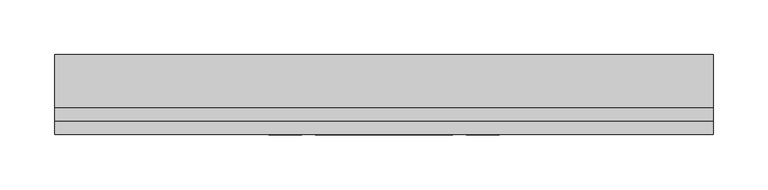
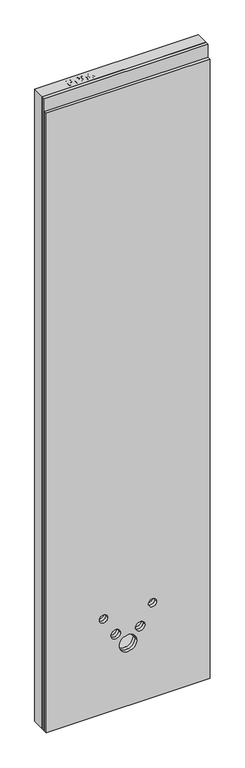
"""IFC4 building model written with IfcOpenShell, lengths in millimetres: proxy geometry, ParedeBidé_Blufab : Parede Bidé -Largura 60 cm."""

from ifc_helpers import new_model, si_unit, point, frame, frame_2d, origin, origin_with_axes, place, context, project, spatial, polyline, circle_curve, trimmed, segment, composite_curve, outline, extrude, source, transform, mapped, element, save


def generic_models_6426e1e6(model_context):
    return source(origin(), model_context, "Body", "SweptSolid", [
        extrude(outline(polyline([(2450.0, 600.0), (2450.0, 0.0), (0.0, 0.0), (0.0, 600.0), (2450.0, 600.0)]), holes=[composite_curve([segment(trimmed(circle_curve(frame_2d((292.0, 255.0)), 17.5), [point((292.0, 272.5))], [point((292.0, 237.5))], True, "CARTESIAN"), True, "CONTINUOUS"), segment(trimmed(circle_curve(frame_2d((292.0, 255.0)), 17.5), [point((292.0, 237.5))], [point((292.0, 272.5))], True, "CARTESIAN"), True, "CONTINUOUS")], self_intersect=False), composite_curve([segment(trimmed(circle_curve(frame_2d((367.0, 210.0)), 15.0), [point((367.0, 225.0))], [point((367.0, 195.0))], True, "CARTESIAN"), True, "CONTINUOUS"), segment(trimmed(circle_curve(frame_2d((367.0, 210.0)), 15.0), [point((367.0, 195.0))], [point((367.0, 225.0))], True, "CARTESIAN"), True, "CONTINUOUS")], self_intersect=False), composite_curve([segment(trimmed(circle_curve(frame_2d((242.0, 300.0)), 32.0), [point((242.0, 332.0))], [point((242.0, 268.0))], True, "CARTESIAN"), True, "CONTINUOUS"), segment(trimmed(circle_curve(frame_2d((242.0, 300.0)), 32.0), [point((242.0, 268.0))], [point((242.0, 332.0))], True, "CARTESIAN"), True, "CONTINUOUS")], self_intersect=False), composite_curve([segment(trimmed(circle_curve(frame_2d((292.0, 345.0)), 17.5), [point((292.0, 362.5))], [point((292.0, 327.5))], True, "CARTESIAN"), True, "CONTINUOUS"), segment(trimmed(circle_curve(frame_2d((292.0, 345.0)), 17.5), [point((292.0, 327.5))], [point((292.0, 362.5))], True, "CARTESIAN"), True, "CONTINUOUS")], self_intersect=False), composite_curve([segment(trimmed(circle_curve(frame_2d((367.0, 390.0)), 15.0), [point((367.0, 405.0))], [point((367.0, 375.0))], True, "CARTESIAN"), True, "CONTINUOUS"), segment(trimmed(circle_curve(frame_2d((367.0, 390.0)), 15.0), [point((367.0, 375.0))], [point((367.0, 405.0))], True, "CARTESIAN"), True, "CONTINUOUS")], self_intersect=False)]), frame((0.0, 25.0126803, 0.0), z_axis=(0.0, 1.0, 0.0), x_axis=(0.0, 0.0, 1.0)), (0.0, 0.0, 1.0), 47.9873197),
        extrude(outline(polyline([(2450.0, 600.0), (2450.0, 0.0), (0.0, 0.0), (0.0, 600.0), (2450.0, 600.0)]), holes=[composite_curve([segment(trimmed(circle_curve(frame_2d((292.0, 255.0)), 17.5), [point((292.0, 272.5))], [point((292.0, 237.5))], True, "CARTESIAN"), True, "CONTINUOUS"), segment(trimmed(circle_curve(frame_2d((292.0, 255.0)), 17.5), [point((292.0, 237.5))], [point((292.0, 272.5))], True, "CARTESIAN"), True, "CONTINUOUS")], self_intersect=False), composite_curve([segment(trimmed(circle_curve(frame_2d((367.0, 210.0)), 15.0), [point((367.0, 225.0))], [point((367.0, 195.0))], True, "CARTESIAN"), True, "CONTINUOUS"), segment(trimmed(circle_curve(frame_2d((367.0, 210.0)), 15.0), [point((367.0, 195.0))], [point((367.0, 225.0))], True, "CARTESIAN"), True, "CONTINUOUS")], self_intersect=False), composite_curve([segment(trimmed(circle_curve(frame_2d((242.0, 300.0)), 32.0), [point((242.0, 332.0))], [point((242.0, 268.0))], True, "CARTESIAN"), True, "CONTINUOUS"), segment(trimmed(circle_curve(frame_2d((242.0, 300.0)), 32.0), [point((242.0, 268.0))], [point((242.0, 332.0))], True, "CARTESIAN"), True, "CONTINUOUS")], self_intersect=False), composite_curve([segment(trimmed(circle_curve(frame_2d((292.0, 345.0)), 17.5), [point((292.0, 362.5))], [point((292.0, 327.5))], True, "CARTESIAN"), True, "CONTINUOUS"), segment(trimmed(circle_curve(frame_2d((292.0, 345.0)), 17.5), [point((292.0, 327.5))], [point((292.0, 362.5))], True, "CARTESIAN"), True, "CONTINUOUS")], self_intersect=False), composite_curve([segment(trimmed(circle_curve(frame_2d((367.0, 390.0)), 15.0), [point((367.0, 405.0))], [point((367.0, 375.0))], True, "CARTESIAN"), True, "CONTINUOUS"), segment(trimmed(circle_curve(frame_2d((367.0, 390.0)), 15.0), [point((367.0, 375.0))], [point((367.0, 405.0))], True, "CARTESIAN"), True, "CONTINUOUS")], self_intersect=False)]), frame((0.0, 12.5126803, 0.0), z_axis=(0.0, 1.0, 0.0), x_axis=(0.0, 0.0, 1.0)), (0.0, 0.0, 1.0), 12.5),
        extrude(outline(polyline([(2400.0, 600.0), (2400.0, 0.0), (0.0, 0.0), (0.0, 600.0), (2400.0, 600.0)]), holes=[composite_curve([segment(trimmed(circle_curve(frame_2d((292.0, 255.0)), 17.5), [point((292.0, 272.5))], [point((292.0, 237.5))], True, "CARTESIAN"), True, "CONTINUOUS"), segment(trimmed(circle_curve(frame_2d((292.0, 255.0)), 17.5), [point((292.0, 237.5))], [point((292.0, 272.5))], True, "CARTESIAN"), True, "CONTINUOUS")], self_intersect=False), composite_curve([segment(trimmed(circle_curve(frame_2d((367.0, 210.0)), 15.0), [point((367.0, 225.0))], [point((367.0, 195.0))], True, "CARTESIAN"), True, "CONTINUOUS"), segment(trimmed(circle_curve(frame_2d((367.0, 210.0)), 15.0), [point((367.0, 195.0))], [point((367.0, 225.0))], True, "CARTESIAN"), True, "CONTINUOUS")], self_intersect=False), composite_curve([segment(trimmed(circle_curve(frame_2d((242.0, 300.0)), 32.0), [point((242.0, 332.0))], [point((242.0, 268.0))], True, "CARTESIAN"), True, "CONTINUOUS"), segment(trimmed(circle_curve(frame_2d((242.0, 300.0)), 32.0), [point((242.0, 268.0))], [point((242.0, 332.0))], True, "CARTESIAN"), True, "CONTINUOUS")], self_intersect=False), composite_curve([segment(trimmed(circle_curve(frame_2d((292.0, 345.0)), 17.5), [point((292.0, 362.5))], [point((292.0, 327.5))], True, "CARTESIAN"), True, "CONTINUOUS"), segment(trimmed(circle_curve(frame_2d((292.0, 345.0)), 17.5), [point((292.0, 327.5))], [point((292.0, 362.5))], True, "CARTESIAN"), True, "CONTINUOUS")], self_intersect=False), composite_curve([segment(trimmed(circle_curve(frame_2d((367.0, 390.0)), 15.0), [point((367.0, 405.0))], [point((367.0, 375.0))], True, "CARTESIAN"), True, "CONTINUOUS"), segment(trimmed(circle_curve(frame_2d((367.0, 390.0)), 15.0), [point((367.0, 375.0))], [point((367.0, 405.0))], True, "CARTESIAN"), True, "CONTINUOUS")], self_intersect=False)]), frame((0.0, 0.0, 0.0), z_axis=(0.0, 1.0, 0.0), x_axis=(0.0, 0.0, 1.0)), (0.0, 0.0, 1.0), 12.5),
        extrude(outline(polyline([(104.6254347, 34.0063401), (104.6254347, 64.1432332), (115.7943321, 64.1432332), (120.2972077, 63.8562852), (123.9576336, 62.4472972), (126.3304724, 59.5336718), (127.2281045, 55.4244299), (124.8037622, 48.9129186), (116.0518495, 46.2494529), (108.3925463, 46.2494529), (108.3925463, 34.0063401), (104.6254347, 34.0063401)]), holes=[polyline([(108.3925463, 50.0165646), (116.2725787, 50.0165646), (121.8202392, 51.3998009), (123.4609929, 55.2919924), (122.4934632, 58.4116317), (119.9513986, 60.1186041), (116.184287, 60.3761215), (108.3925463, 60.3761215), (108.3925463, 50.0165646)])]), origin_with_axes(), (0.0, 0.0, 1.0), 2450.0),
        extrude(outline(polyline([(132.407883, 34.0063401), (132.407883, 64.1432332), (143.9078742, 64.1432332), (149.5401475, 63.2566376), (152.8658007, 60.530632), (154.0687749, 56.6752287), (153.0570994, 53.154598), (150.0, 50.4874535), (153.7119293, 47.6768351), (155.0105528, 42.9900185), (154.1239572, 38.9396377), (151.9277017, 36.0554428), (148.6498731, 34.5250537), (143.8195825, 34.0063401), (132.407883, 34.0063401)]), holes=[polyline([(136.1749946, 51.9001204), (143.0543879, 51.9001204), (147.0716593, 52.2238565), (149.488644, 53.6181293), (150.3016632, 56.0719022), (149.5438263, 58.5293539), (147.3733226, 59.9824878), (142.5319955, 60.3761215), (136.1749946, 60.3761215), (136.1749946, 51.9001204)]), polyline([(136.1749946, 37.7734518), (143.9005165, 37.7734518), (146.6964197, 37.9206046), (149.0619009, 38.7409814), (150.6290782, 40.4148445), (151.2434411, 42.9532303), (150.5223924, 45.8815709), (148.1863418, 47.6290104), (143.5326345, 48.1330087), (136.1749946, 48.1330087), (136.1749946, 37.7734518)])]), origin_with_axes(), (0.0, 0.0, 1.0), 2450.0),
        extrude(outline(polyline([(178.0841115, 56.138121), (174.3169999, 55.667232), (172.8896177, 58.8089442), (169.1151485, 60.3761215), (165.7159188, 59.4637742), (163.1444237, 56.0387928), (162.0738871, 49.3249464), (165.3958615, 52.3305423), (169.512461, 53.3127872), (175.9136077, 50.6272487), (178.5550005, 43.6889942), (177.3115593, 38.4908216), (173.8902568, 34.8120017), (168.9532804, 33.5354512), (161.2755832, 36.9199655), (158.3067755, 48.0741476), (161.6029981, 60.7072153), (169.3505929, 64.1432332), (175.3029236, 62.0168752), (178.0841115, 56.138121)]), holes=[polyline([(162.0738871, 43.7478554), (162.9457674, 40.4847421), (165.263424, 38.115582), (168.6589748, 37.3025628), (173.0993105, 38.9874623), (174.7878888, 43.5639144), (173.1213834, 47.9453889), (168.5044644, 49.5456756), (163.9464064, 47.9453889), (162.0738871, 43.7478554)])]), origin_with_axes(), (0.0, 0.0, 1.0), 2450.0),
        extrude(outline(polyline([(181.8512231, 48.8319845), (182.9585479, 57.5029632), (186.247413, 62.5024795), (191.7398912, 64.1432332), (196.1397598, 63.1720247), (199.1784651, 60.3724427), (200.9442987, 55.9137129), (201.6285592, 48.8319845), (200.5322709, 40.1977941), (197.2544423, 35.1872413), (191.7398912, 33.5354512), (184.8531402, 36.4049307), (181.8512231, 48.8319845)]), holes=[polyline([(185.6183348, 48.8393422), (187.3841683, 39.484103), (191.7398912, 37.3025628), (196.095614, 39.4914607), (197.8614476, 48.8393422), (196.1544751, 58.0878955), (191.6957453, 60.3761215), (187.4430295, 58.3601282), (185.6183348, 48.8393422)])]), origin_with_axes(), (0.0, 0.0, 1.0), 2450.0),
    ])


if __name__ == "__main__":
    model = new_model("IFC4")
    model_context = context("Model", 3, world=origin())
    ifc_project = project(units=[si_unit("LENGTHUNIT", "METRE", prefix="MILLI")], contexts=[model_context])
    site = spatial("IfcSite", under=ifc_project)
    building = spatial("IfcBuilding", under=site)
    placement = place(None, origin())
    generic_models_shape = generic_models_6426e1e6(model_context)
    element("IfcBuildingElementProxy", 1, Name="ParedeBidé_Blufab : Parede Bidé -Largura 60 cm", ObjectType="ParedeBidé_Blufab : Parede Bidé -Largura 60 cm", at=placement, inside=building, context=model_context, shape_type="MappedRepresentation", body=[
        mapped(generic_models_shape, transform((0.0, 0.0, 0.0), x_axis=(1.0, 0.0, 0.0), y_axis=(0.0, 1.0, 0.0), z_axis=(0.0, 0.0, 1.0))),
    ])
    save(model, "model.ifc")
